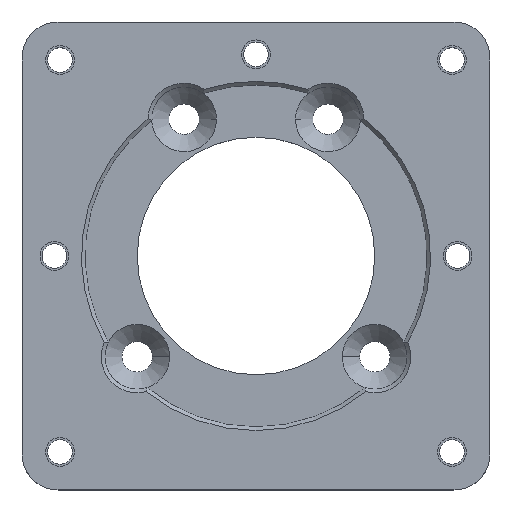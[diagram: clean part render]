
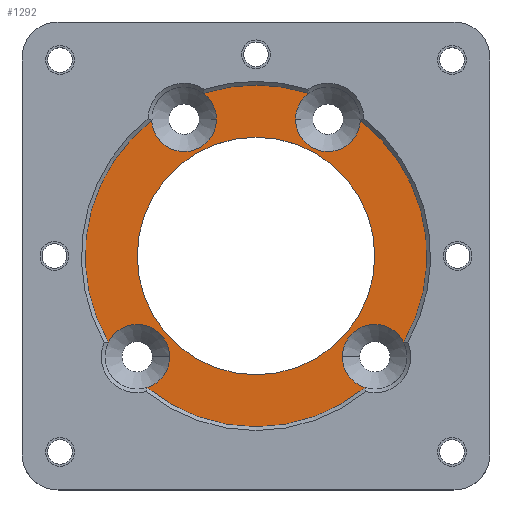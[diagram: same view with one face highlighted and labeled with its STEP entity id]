
A CAD part, top view. The second image highlights one B-rep face of the part: STEP entity #1292.
In plain terms, the highlighted planar face has unit normal (0, 0, 1).
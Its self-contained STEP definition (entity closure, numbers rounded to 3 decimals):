
#221=CARTESIAN_POINT('',(0.,0.,7.));
#222=DIRECTION('',(0.,0.,1.));
#223=DIRECTION('',(0.,1.,0.));
#224=AXIS2_PLACEMENT_3D('',#221,#222,#223);
#226=CARTESIAN_POINT('',(0.,0.,7.));
#227=DIRECTION('',(0.,0.,1.));
#228=DIRECTION('',(0.,-1.,0.));
#229=AXIS2_PLACEMENT_3D('',#226,#227,#228);
#231=CARTESIAN_POINT('',(-20.,38.,7.));
#232=DIRECTION('',(0.,0.,1.));
#233=DIRECTION('',(-0.999,-0.042,0.));
#234=AXIS2_PLACEMENT_3D('',#231,#232,#233);
#236=CARTESIAN_POINT('',(-20.,38.,7.));
#237=DIRECTION('',(0.,0.,1.));
#238=DIRECTION('',(1.,0.,0.));
#239=AXIS2_PLACEMENT_3D('',#236,#237,#238);
#241=CARTESIAN_POINT('',(20.,38.,7.));
#242=DIRECTION('',(0.,0.,1.));
#243=DIRECTION('',(-0.6,0.8,0.));
#244=AXIS2_PLACEMENT_3D('',#241,#242,#243);
#246=CARTESIAN_POINT('',(20.,38.,7.));
#247=DIRECTION('',(0.,0.,1.));
#248=DIRECTION('',(-1.,0.,0.));
#249=AXIS2_PLACEMENT_3D('',#246,#247,#248);
#251=CARTESIAN_POINT('',(33.,-28.,7.));
#252=DIRECTION('',(0.,0.,1.));
#253=DIRECTION('',(0.892,0.452,0.));
#254=AXIS2_PLACEMENT_3D('',#251,#252,#253);
#256=CARTESIAN_POINT('',(33.,-28.,7.));
#257=DIRECTION('',(0.,0.,1.));
#258=DIRECTION('',(-1.,0.,0.));
#259=AXIS2_PLACEMENT_3D('',#256,#257,#258);
#261=CARTESIAN_POINT('',(-33.,-28.,7.));
#262=DIRECTION('',(0.,0.,1.));
#263=DIRECTION('',(0.3,-0.954,0.));
#264=AXIS2_PLACEMENT_3D('',#261,#262,#263);
#266=CARTESIAN_POINT('',(-33.,-28.,7.));
#267=DIRECTION('',(0.,0.,1.));
#268=DIRECTION('',(1.,0.,0.));
#269=AXIS2_PLACEMENT_3D('',#266,#267,#268);
#317=CARTESIAN_POINT('',(0.,0.,7.));
#318=DIRECTION('',(0.,0.,1.));
#319=DIRECTION('',(-0.61,0.792,0.));
#320=AXIS2_PLACEMENT_3D('',#317,#318,#319);
#330=CARTESIAN_POINT('',(0.,0.,7.));
#331=DIRECTION('',(0.,0.,1.));
#332=DIRECTION('',(-0.638,-0.77,0.));
#333=AXIS2_PLACEMENT_3D('',#330,#331,#332);
#343=CARTESIAN_POINT('',(0.,0.,7.));
#344=DIRECTION('',(0.,0.,1.));
#345=DIRECTION('',(0.864,-0.504,0.));
#346=AXIS2_PLACEMENT_3D('',#343,#344,#345);
#356=CARTESIAN_POINT('',(0.,0.,7.));
#357=DIRECTION('',(0.,0.,1.));
#358=DIRECTION('',(0.307,0.952,0.));
#359=AXIS2_PLACEMENT_3D('',#356,#357,#358);
#845=CARTESIAN_POINT('',(0.,33.,7.));
#846=CARTESIAN_POINT('',(0.,-33.,7.));
#847=VERTEX_POINT('',#845);
#848=VERTEX_POINT('',#846);
#929=CARTESIAN_POINT('',(-11.,38.,7.));
#930=VERTEX_POINT('',#929);
#932=CARTESIAN_POINT('',(-24.,-28.,7.));
#934=VERTEX_POINT('',#932);
#942=CARTESIAN_POINT('',(24.,-28.,7.));
#944=VERTEX_POINT('',#942);
#952=CARTESIAN_POINT('',(11.,38.,7.));
#954=VERTEX_POINT('',#952);
#962=CARTESIAN_POINT('',(-28.992,37.626,7.));
#964=VERTEX_POINT('',#962);
#965=CARTESIAN_POINT('',(-41.029,-23.934,7.));
#967=VERTEX_POINT('',#965);
#970=CARTESIAN_POINT('',(41.029,-23.934,7.));
#972=VERTEX_POINT('',#970);
#973=CARTESIAN_POINT('',(28.992,37.626,7.));
#975=VERTEX_POINT('',#973);
#977=CARTESIAN_POINT('',(-14.601,45.2,7.));
#978=VERTEX_POINT('',#977);
#979=CARTESIAN_POINT('',(-30.296,-36.584,7.));
#980=VERTEX_POINT('',#979);
#981=CARTESIAN_POINT('',(30.296,-36.584,7.));
#982=VERTEX_POINT('',#981);
#983=CARTESIAN_POINT('',(14.601,45.2,7.));
#984=VERTEX_POINT('',#983);
#1257=CARTESIAN_POINT('',(0.,0.,7.));
#1258=DIRECTION('',(0.,0.,-1.));
#1259=DIRECTION('',(0.,1.,0.));
#1260=AXIS2_PLACEMENT_3D('',#1257,#1258,#1259);
#1261=PLANE('',#1260);
#1263=ORIENTED_EDGE('',*,*,#1262,.T.);
#1265=ORIENTED_EDGE('',*,*,#1264,.T.);
#1267=ORIENTED_EDGE('',*,*,#1266,.F.);
#1269=ORIENTED_EDGE('',*,*,#1268,.T.);
#1271=ORIENTED_EDGE('',*,*,#1270,.T.);
#1273=ORIENTED_EDGE('',*,*,#1272,.F.);
#1275=ORIENTED_EDGE('',*,*,#1274,.T.);
#1277=ORIENTED_EDGE('',*,*,#1276,.T.);
#1279=ORIENTED_EDGE('',*,*,#1278,.F.);
#1281=ORIENTED_EDGE('',*,*,#1280,.T.);
#1283=ORIENTED_EDGE('',*,*,#1282,.T.);
#1285=ORIENTED_EDGE('',*,*,#1284,.F.);
#1286=EDGE_LOOP('',(#1263,#1265,#1267,#1269,#1271,#1273,#1275,#1277,#1279,#1281,
#1283,#1285));
#1287=FACE_OUTER_BOUND('',#1286,.F.);
#1288=ORIENTED_EDGE('',*,*,#1251,.T.);
#1289=ORIENTED_EDGE('',*,*,#1165,.T.);
#1290=EDGE_LOOP('',(#1288,#1289));
#1291=FACE_BOUND('',#1290,.F.);
#1292=ADVANCED_FACE('',(#1287,#1291),#1261,.F.);
#225=CIRCLE('',#224,33.);
#230=CIRCLE('',#229,33.);
#235=CIRCLE('',#234,9.);
#240=CIRCLE('',#239,9.);
#245=CIRCLE('',#244,9.);
#250=CIRCLE('',#249,9.);
#255=CIRCLE('',#254,9.);
#260=CIRCLE('',#259,9.);
#265=CIRCLE('',#264,9.);
#270=CIRCLE('',#269,9.);
#321=CIRCLE('',#320,47.5);
#334=CIRCLE('',#333,47.5);
#347=CIRCLE('',#346,47.5);
#360=CIRCLE('',#359,47.5);
#1165=EDGE_CURVE('',#848,#847,#230,.T.);
#1251=EDGE_CURVE('',#847,#848,#225,.T.);
#1262=EDGE_CURVE('',#964,#930,#235,.T.);
#1264=EDGE_CURVE('',#930,#978,#240,.T.);
#1266=EDGE_CURVE('',#984,#978,#360,.T.);
#1268=EDGE_CURVE('',#984,#954,#245,.T.);
#1270=EDGE_CURVE('',#954,#975,#250,.T.);
#1272=EDGE_CURVE('',#972,#975,#347,.T.);
#1274=EDGE_CURVE('',#972,#944,#255,.T.);
#1276=EDGE_CURVE('',#944,#982,#260,.T.);
#1278=EDGE_CURVE('',#980,#982,#334,.T.);
#1280=EDGE_CURVE('',#980,#934,#265,.T.);
#1282=EDGE_CURVE('',#934,#967,#270,.T.);
#1284=EDGE_CURVE('',#964,#967,#321,.T.);
